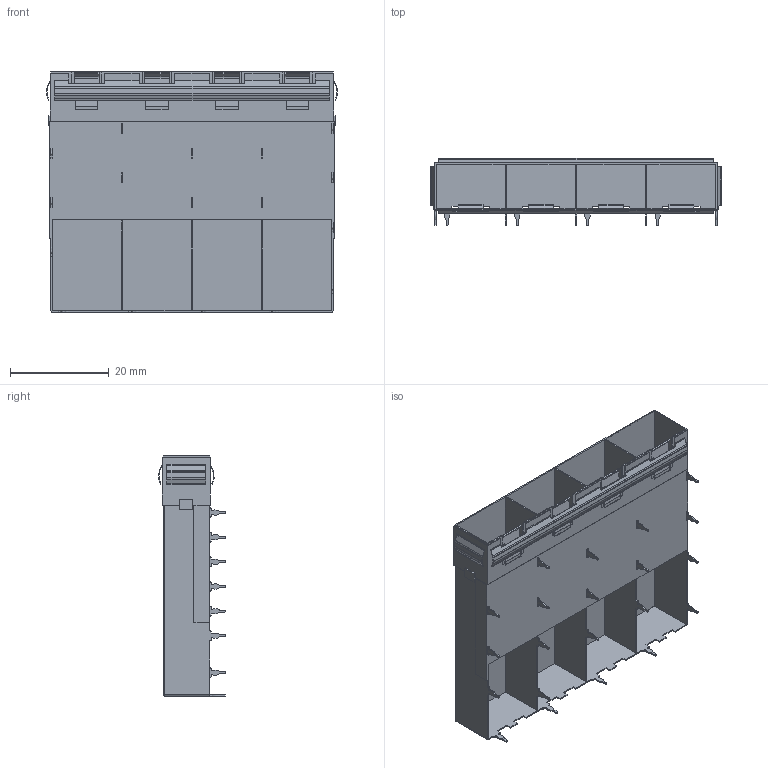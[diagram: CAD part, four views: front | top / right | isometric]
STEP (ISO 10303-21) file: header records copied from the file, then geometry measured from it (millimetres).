
FILE_DESCRIPTION (( 'STEP AP203' ), '1' );
FILE_NAME ('SFP+ 1X4 压接脚 鱼眼2.9.STEP', '2020-10-30T06:59:33', ( '桑三博客' ), ( 'Www.SangSan.Cn' ), 'SwSTEP 2.0', 'SolidWorks 2018', '' );
FILE_SCHEMA (( 'CONFIG_CONTROL_DESIGN' ));
Length unit declared in the file: millimetre
Products named in the file (1): SFP+ 1X4 揤諉褐 赶桉2.9
Bounding box: 59.05 x 13.55 x 48.75 mm (x, y, z)
Volume: 2033.1 mm3; surface area: 15672.5 mm2
Topology: 4 solids, 4 shells, 757 faces, 2284 edges, 1530 vertices
Faces by surface type: plane 439, cylinder 316, sphere 2
Entity records: 25839 total; most frequent: CARTESIAN_POINT 4570, ORIENTED_EDGE 4564, DIRECTION 4430, EDGE_CURVE 2282, VECTOR 1650, LINE 1650, VERTEX_POINT 1530, AXIS2_PLACEMENT_3D 1390
